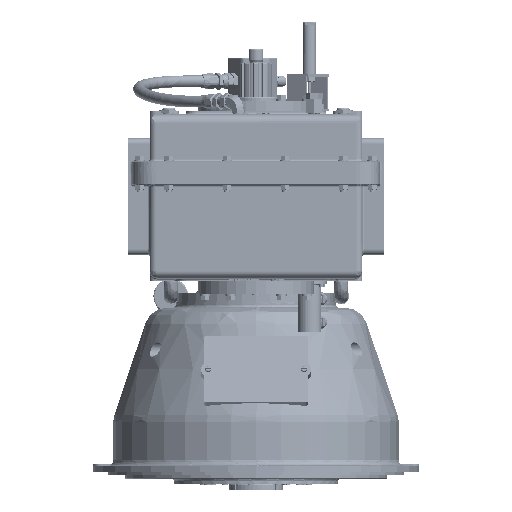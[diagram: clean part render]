
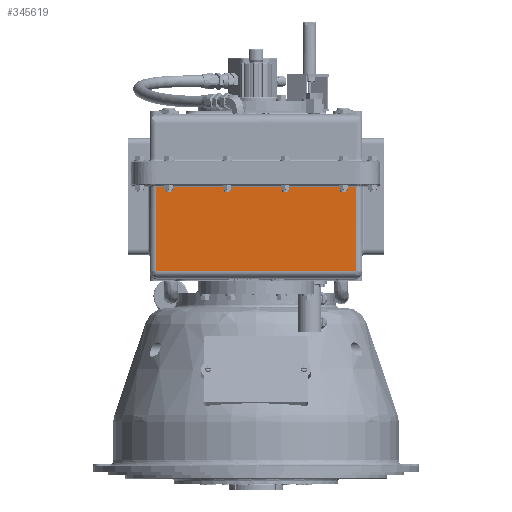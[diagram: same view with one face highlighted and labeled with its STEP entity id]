
A CAD part, front view. The second image highlights one B-rep face of the part: STEP entity #345619.
In plain terms, the highlighted planar face has unit normal (0, -1, 0).
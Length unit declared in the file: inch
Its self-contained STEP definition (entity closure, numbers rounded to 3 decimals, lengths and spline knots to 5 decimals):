
#22711 = LINE ( 'NONE', #200918, #326010 ) ;
#32256 = ORIENTED_EDGE ( 'NONE', *, *, #99396, .T. ) ;
#44304 = EDGE_CURVE ( 'NONE', #219408, #436468, #96083, .T. ) ;
#63600 = CARTESIAN_POINT ( 'NONE',  ( 8.625, -12.24999, -8.37 ) ) ;
#65737 = DIRECTION ( 'NONE',  ( -1., 0., 0. ) ) ;
#96083 = LINE ( 'NONE', #170236, #386788 ) ;
#99396 = EDGE_CURVE ( 'NONE', #436468, #500436, #466106, .T. ) ;
#106988 = LINE ( 'NONE', #328876, #385351 ) ;
#111478 = CARTESIAN_POINT ( 'NONE',  ( 8.625, -12.25, -9.05 ) ) ;
#129803 = CARTESIAN_POINT ( 'NONE',  ( -8.625, -12.25, -8.37 ) ) ;
#163198 = AXIS2_PLACEMENT_3D ( 'NONE', #111478, #191023, #467697 ) ;
#169672 = FACE_OUTER_BOUND ( 'NONE', #390727, .T. ) ;
#170236 = CARTESIAN_POINT ( 'NONE',  ( 8.625, -12.25, -9.05 ) ) ;
#191023 = DIRECTION ( 'NONE',  ( 0., -1., 0. ) ) ;
#200918 = CARTESIAN_POINT ( 'NONE',  ( -8.625, -12.25, -9.05 ) ) ;
#208834 = ORIENTED_EDGE ( 'NONE', *, *, #427916, .F. ) ;
#219408 = VERTEX_POINT ( 'NONE', #63600 ) ;
#236311 = EDGE_CURVE ( 'NONE', #500436, #372486, #22711, .T. ) ;
#240672 = DIRECTION ( 'NONE',  ( 0., 0., -1. ) ) ;
#255752 = VECTOR ( 'NONE', #65737, 39.37008 ) ;
#268848 = PLANE ( 'NONE',  #163198 ) ;
#281995 = DIRECTION ( 'NONE',  ( -1., 0., 0. ) ) ;
#324107 = ORIENTED_EDGE ( 'NONE', *, *, #236311, .T. ) ;
#326010 = VECTOR ( 'NONE', #240672, 39.37008 ) ;
#328876 = CARTESIAN_POINT ( 'NONE',  ( 9.17889, -12.25, -8.37 ) ) ;
#336508 = CARTESIAN_POINT ( 'NONE',  ( 8.625, -12.25, -1.18 ) ) ;
#342418 = CARTESIAN_POINT ( 'NONE',  ( 8.625, -12.25, -1.18 ) ) ;
#345619 = ADVANCED_FACE ( 'NONE', ( #169672 ), #268848, .T. ) ;
#367514 = DIRECTION ( 'NONE',  ( 0., 0., 1. ) ) ;
#372486 = VERTEX_POINT ( 'NONE', #129803 ) ;
#385351 = VECTOR ( 'NONE', #281995, 39.37008 ) ;
#386788 = VECTOR ( 'NONE', #367514, 39.37008 ) ;
#390727 = EDGE_LOOP ( 'NONE', ( #433717, #32256, #324107, #208834 ) ) ;
#427916 = EDGE_CURVE ( 'NONE', #219408, #372486, #106988, .T. ) ;
#433717 = ORIENTED_EDGE ( 'NONE', *, *, #44304, .T. ) ;
#436468 = VERTEX_POINT ( 'NONE', #336508 ) ;
#466106 = LINE ( 'NONE', #342418, #255752 ) ;
#467697 = DIRECTION ( 'NONE',  ( 0., 0., -1. ) ) ;
#480688 = CARTESIAN_POINT ( 'NONE',  ( -8.625, -12.25, -1.18 ) ) ;
#500436 = VERTEX_POINT ( 'NONE', #480688 ) ;
